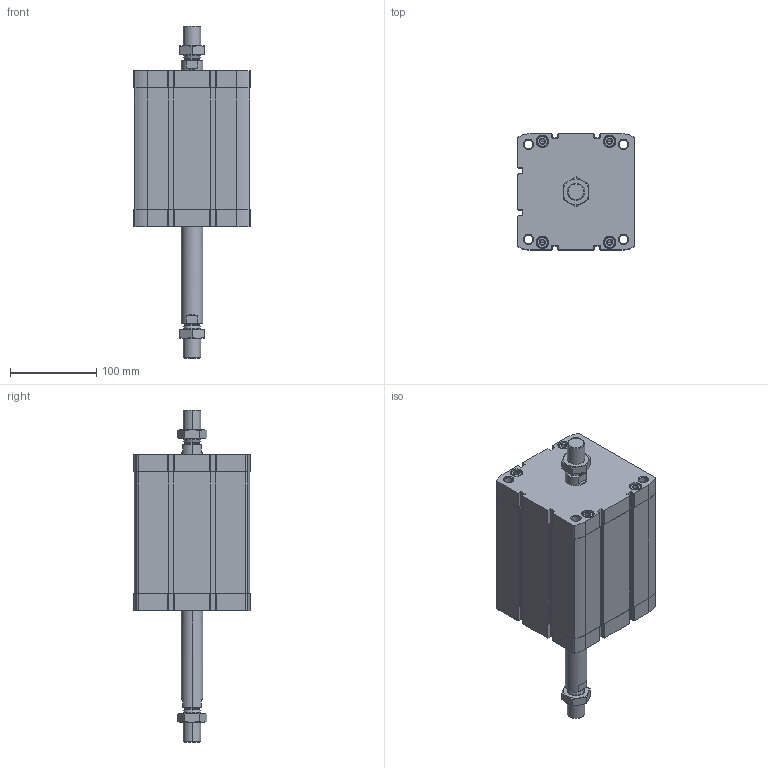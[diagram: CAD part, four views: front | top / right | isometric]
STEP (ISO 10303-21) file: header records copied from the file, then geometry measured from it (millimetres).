
FILE_DESCRIPTION (( 'STEP AP203' ), '1' );
FILE_NAME ('CCN125-100-P.STEP', '2020-06-22T19:16:24', ( '' ), ( '' ), 'SwSTEP 2.0', 'SolidWorks 2019', '' );
FILE_SCHEMA (( 'CONFIG_CONTROL_DESIGN' ));
Length unit declared in the file: millimetre
Products named in the file (1): CCN125-100-P
Bounding box: 134.6 x 134.6 x 384.4 mm (x, y, z)
Volume: 2050874.2 mm3; surface area: 320498.3 mm2
Topology: 4 solids, 4 shells, 592 faces, 1496 edges, 936 vertices
Faces by surface type: plane 288, cylinder 204, cone 92, torus 8
Entity records: 19603 total; most frequent: CARTESIAN_POINT 5061, DIRECTION 3146, ORIENTED_EDGE 2960, EDGE_CURVE 1480, AXIS2_PLACEMENT_3D 1165, VERTEX_POINT 936, VECTOR 816, LINE 816
